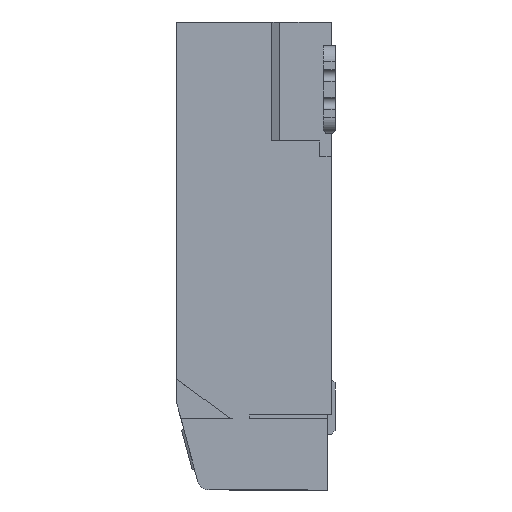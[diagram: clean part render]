
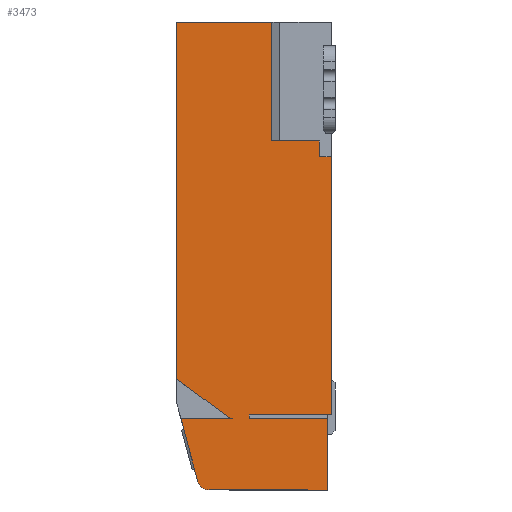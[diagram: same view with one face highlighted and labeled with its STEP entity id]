
A CAD part, left-side view. The second image highlights one B-rep face of the part: STEP entity #3473.
In plain terms, the highlighted planar face has unit normal (-1, 0, 0).
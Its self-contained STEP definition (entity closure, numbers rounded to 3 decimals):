
#194 = VERTEX_POINT ( 'NONE', #6294 ) ;
#319 = VERTEX_POINT ( 'NONE', #6363 ) ;
#442 = VERTEX_POINT ( 'NONE', #6409 ) ;
#467 = VERTEX_POINT ( 'NONE', #6430 ) ;
#497 = VERTEX_POINT ( 'NONE', #6455 ) ;
#502 = VERTEX_POINT ( 'NONE', #6459 ) ;
#509 = VERTEX_POINT ( 'NONE', #6465 ) ;
#663 = EDGE_CURVE ( 'NONE', #831, #809, #6477, .T. ) ;
#670 = EDGE_CURVE ( 'NONE', #746, #823, #6491, .T. ) ;
#746 = VERTEX_POINT ( 'NONE', #5517 ) ;
#790 = VERTEX_POINT ( 'NONE', #5576 ) ;
#809 = VERTEX_POINT ( 'NONE', #5596 ) ;
#820 = VERTEX_POINT ( 'NONE', #5608 ) ;
#823 = VERTEX_POINT ( 'NONE', #5611 ) ;
#831 = VERTEX_POINT ( 'NONE', #5619 ) ;
#832 = VERTEX_POINT ( 'NONE', #5620 ) ;
#837 = VERTEX_POINT ( 'NONE', #5625 ) ;
#844 = VERTEX_POINT ( 'NONE', #5633 ) ;
#884 = VERTEX_POINT ( 'NONE', #5674 ) ;
#1125 = VECTOR ( 'NONE', #4783, 1000. ) ;
#1183 = EDGE_CURVE ( 'NONE', #790, #844, #5748, .T. ) ;
#1206 = EDGE_CURVE ( 'NONE', #823, #884, #5832, .T. ) ;
#1252 = VECTOR ( 'NONE', #6506, 1000. ) ;
#1255 = VECTOR ( 'NONE', #6486, 1000. ) ;
#1345 = VECTOR ( 'NONE', #5772, 1000. ) ;
#1366 = VECTOR ( 'NONE', #5865, 1000. ) ;
#1497 = CIRCLE ( 'NONE', #1526, 0.15 ) ;
#1526 = AXIS2_PLACEMENT_3D ( 'NONE', #5173, #5174, #5175 ) ;
#1609 = VECTOR ( 'NONE', #4393, 1000. ) ;
#1611 = VECTOR ( 'NONE', #4395, 1000. ) ;
#1612 = CIRCLE ( 'NONE', #1621, 0.1 ) ;
#1613 = VECTOR ( 'NONE', #4398, 1000. ) ;
#1616 = VECTOR ( 'NONE', #4407, 1000. ) ;
#1617 = VECTOR ( 'NONE', #4410, 1000. ) ;
#1621 = AXIS2_PLACEMENT_3D ( 'NONE', #4417, #4418, #4419 ) ;
#1788 = VECTOR ( 'NONE', #4742, 1000. ) ;
#1790 = VECTOR ( 'NONE', #4738, 1000. ) ;
#1917 = EDGE_CURVE ( 'NONE', #831, #837, #1497, .T. ) ;
#2040 = AXIS2_PLACEMENT_3D ( 'NONE', #2232, #2233, #2234 ) ;
#2124 = VECTOR ( 'NONE', #2664, 1000. ) ;
#2127 = VECTOR ( 'NONE', #2674, 1000. ) ;
#2223 = VECTOR ( 'NONE', #4751, 1000. ) ;
#2229 = FACE_OUTER_BOUND ( 'NONE', #6196, .T. ) ;
#2230 = PLANE ( 'NONE',  #2040 ) ;
#2232 = CARTESIAN_POINT ( 'NONE',  ( -4.25, 0., 5.2 ) ) ;
#2233 = DIRECTION ( 'NONE',  ( 1., 0., 0. ) ) ;
#2234 = DIRECTION ( 'NONE',  ( 0., 0., -1. ) ) ;
#2662 = LINE ( 'NONE', #2663, #2124 ) ;
#2663 = CARTESIAN_POINT ( 'NONE',  ( -4.25, 1.705, -0.7 ) ) ;
#2664 = DIRECTION ( 'NONE',  ( 0., 1., 0. ) ) ;
#2671 = LINE ( 'NONE', #2673, #2127 ) ;
#2673 = CARTESIAN_POINT ( 'NONE',  ( -4.25, 0.1, -0.7 ) ) ;
#2674 = DIRECTION ( 'NONE',  ( 0., 0., -1. ) ) ;
#3092 = EDGE_CURVE ( 'NONE', #194, #497, #4374, .T. ) ;
#3093 = EDGE_CURVE ( 'NONE', #497, #820, #4383, .T. ) ;
#3094 = EDGE_CURVE ( 'NONE', #319, #467, #4396, .T. ) ;
#3097 = EDGE_CURVE ( 'NONE', #319, #884, #4405, .T. ) ;
#3098 = EDGE_CURVE ( 'NONE', #746, #502, #4408, .T. ) ;
#3100 = EDGE_CURVE ( 'NONE', #502, #509, #1612, .T. ) ;
#3187 = EDGE_CURVE ( 'NONE', #194, #844, #4736, .T. ) ;
#3188 = EDGE_CURVE ( 'NONE', #467, #442, #4739, .T. ) ;
#3191 = EDGE_CURVE ( 'NONE', #442, #790, #4748, .T. ) ;
#3202 = EDGE_CURVE ( 'NONE', #809, #509, #4781, .T. ) ;
#3473 = ADVANCED_FACE ( 'NONE', ( #2229 ), #2230, .F. ) ;
#3559 = EDGE_CURVE ( 'NONE', #832, #837, #2662, .T. ) ;
#3562 = EDGE_CURVE ( 'NONE', #820, #832, #2671, .T. ) ;
#4374 = LINE ( 'NONE', #4391, #1609 ) ;
#4383 = LINE ( 'NONE', #4394, #1611 ) ;
#4391 = CARTESIAN_POINT ( 'NONE',  ( -4.25, 1.085, 0.2 ) ) ;
#4393 = DIRECTION ( 'NONE',  ( 0., 0., -1. ) ) ;
#4394 = CARTESIAN_POINT ( 'NONE',  ( -4.25, 1.097, 0.2 ) ) ;
#4395 = DIRECTION ( 'NONE',  ( 0., -1., 0. ) ) ;
#4396 = LINE ( 'NONE', #4397, #1613 ) ;
#4397 = CARTESIAN_POINT ( 'NONE',  ( -4.25, 0.05, 3.7 ) ) ;
#4398 = DIRECTION ( 'NONE',  ( 0., -1., 0. ) ) ;
#4405 = LINE ( 'NONE', #4406, #1616 ) ;
#4406 = CARTESIAN_POINT ( 'NONE',  ( -4.25, 0.8, 3.7 ) ) ;
#4407 = DIRECTION ( 'NONE',  ( 0., 0., 1. ) ) ;
#4408 = LINE ( 'NONE', #4409, #1617 ) ;
#4409 = CARTESIAN_POINT ( 'NONE',  ( -4.25, 1.932, 0.65 ) ) ;
#4410 = DIRECTION ( 'NONE',  ( 0., -0.804, -0.594 ) ) ;
#4417 = CARTESIAN_POINT ( 'NONE',  ( -4.25, 1.29, 0.3 ) ) ;
#4418 = DIRECTION ( 'NONE',  ( -1., 0., 0. ) ) ;
#4419 = DIRECTION ( 'NONE',  ( 0., 0., 1. ) ) ;
#4736 = LINE ( 'NONE', #4737, #1790 ) ;
#4737 = CARTESIAN_POINT ( 'NONE',  ( -4.25, 1.205, 0.248 ) ) ;
#4738 = DIRECTION ( 'NONE',  ( 0., -1., 0. ) ) ;
#4739 = LINE ( 'NONE', #4741, #1788 ) ;
#4741 = CARTESIAN_POINT ( 'NONE',  ( -4.25, 0.2, 3.5 ) ) ;
#4742 = DIRECTION ( 'NONE',  ( 0., 0., -1. ) ) ;
#4748 = LINE ( 'NONE', #4750, #2223 ) ;
#4750 = CARTESIAN_POINT ( 'NONE',  ( -4.25, 0.05, 3.5 ) ) ;
#4751 = DIRECTION ( 'NONE',  ( 0., -1., 0. ) ) ;
#4781 = LINE ( 'NONE', #4782, #1125 ) ;
#4782 = CARTESIAN_POINT ( 'NONE',  ( -4.25, 1.946, 0.2 ) ) ;
#4783 = DIRECTION ( 'NONE',  ( 0., -1., 0. ) ) ;
#5173 = CARTESIAN_POINT ( 'NONE',  ( -4.25, 1.59, -0.55 ) ) ;
#5174 = DIRECTION ( 'NONE',  ( -1., 0., 0. ) ) ;
#5175 = DIRECTION ( 'NONE',  ( 0., 1., 0. ) ) ;
#5312 = ORIENTED_EDGE ( 'NONE', *, *, #3562, .F. ) ;
#5313 = ORIENTED_EDGE ( 'NONE', *, *, #3093, .F. ) ;
#5314 = ORIENTED_EDGE ( 'NONE', *, *, #3092, .F. ) ;
#5363 = ORIENTED_EDGE ( 'NONE', *, *, #3559, .F. ) ;
#5480 = ORIENTED_EDGE ( 'NONE', *, *, #3098, .T. ) ;
#5483 = ORIENTED_EDGE ( 'NONE', *, *, #3100, .T. ) ;
#5488 = ORIENTED_EDGE ( 'NONE', *, *, #663, .F. ) ;
#5504 = ORIENTED_EDGE ( 'NONE', *, *, #1917, .T. ) ;
#5506 = ORIENTED_EDGE ( 'NONE', *, *, #670, .F. ) ;
#5517 = CARTESIAN_POINT ( 'NONE',  ( -4.25, 2., 0.7 ) ) ;
#5530 = ORIENTED_EDGE ( 'NONE', *, *, #3202, .F. ) ;
#5563 = ORIENTED_EDGE ( 'NONE', *, *, #1183, .F. ) ;
#5576 = CARTESIAN_POINT ( 'NONE',  ( -4.25, 0.05, 3.5 ) ) ;
#5596 = CARTESIAN_POINT ( 'NONE',  ( -4.25, 1.946, 0.2 ) ) ;
#5608 = CARTESIAN_POINT ( 'NONE',  ( -4.25, 0.1, 0.2 ) ) ;
#5611 = CARTESIAN_POINT ( 'NONE',  ( -4.25, 2., 5.2 ) ) ;
#5619 = CARTESIAN_POINT ( 'NONE',  ( -4.25, 1.735, -0.589 ) ) ;
#5620 = CARTESIAN_POINT ( 'NONE',  ( -4.25, 0.1, -0.7 ) ) ;
#5625 = CARTESIAN_POINT ( 'NONE',  ( -4.25, 1.59, -0.7 ) ) ;
#5633 = CARTESIAN_POINT ( 'NONE',  ( -4.25, 0.05, 0.248 ) ) ;
#5674 = CARTESIAN_POINT ( 'NONE',  ( -4.25, 0.8, 5.2 ) ) ;
#5748 = LINE ( 'NONE', #5771, #1345 ) ;
#5771 = CARTESIAN_POINT ( 'NONE',  ( -4.25, 0.05, 0.65 ) ) ;
#5772 = DIRECTION ( 'NONE',  ( 0., 0., -1. ) ) ;
#5820 = ORIENTED_EDGE ( 'NONE', *, *, #3097, .T. ) ;
#5822 = ORIENTED_EDGE ( 'NONE', *, *, #1206, .F. ) ;
#5826 = ORIENTED_EDGE ( 'NONE', *, *, #3191, .F. ) ;
#5828 = ORIENTED_EDGE ( 'NONE', *, *, #3188, .F. ) ;
#5830 = ORIENTED_EDGE ( 'NONE', *, *, #3094, .F. ) ;
#5832 = LINE ( 'NONE', #5862, #1366 ) ;
#5862 = CARTESIAN_POINT ( 'NONE',  ( -4.25, 2., 5.2 ) ) ;
#5864 = ORIENTED_EDGE ( 'NONE', *, *, #3187, .T. ) ;
#5865 = DIRECTION ( 'NONE',  ( 0., -1., 0. ) ) ;
#6196 = EDGE_LOOP ( 'NONE', ( #5864, #5563, #5826, #5828, #5830, #5820, #5822, #5506, #5480, #5483, #5530, #5488, #5504, #5363, #5312, #5313, #5314 ) ) ;
#6294 = CARTESIAN_POINT ( 'NONE',  ( -4.25, 1.085, 0.248 ) ) ;
#6363 = CARTESIAN_POINT ( 'NONE',  ( -4.25, 0.8, 3.7 ) ) ;
#6409 = CARTESIAN_POINT ( 'NONE',  ( -4.25, 0.2, 3.5 ) ) ;
#6430 = CARTESIAN_POINT ( 'NONE',  ( -4.25, 0.2, 3.7 ) ) ;
#6455 = CARTESIAN_POINT ( 'NONE',  ( -4.25, 1.085, 0.2 ) ) ;
#6459 = CARTESIAN_POINT ( 'NONE',  ( -4.25, 1.349, 0.22 ) ) ;
#6465 = CARTESIAN_POINT ( 'NONE',  ( -4.25, 1.29, 0.2 ) ) ;
#6477 = LINE ( 'NONE', #6485, #1255 ) ;
#6485 = CARTESIAN_POINT ( 'NONE',  ( -4.25, 1.946, 0.2 ) ) ;
#6486 = DIRECTION ( 'NONE',  ( 0., 0.259, 0.966 ) ) ;
#6491 = LINE ( 'NONE', #6505, #1252 ) ;
#6505 = CARTESIAN_POINT ( 'NONE',  ( -4.25, 2., 0.2 ) ) ;
#6506 = DIRECTION ( 'NONE',  ( 0., 0., 1. ) ) ;
